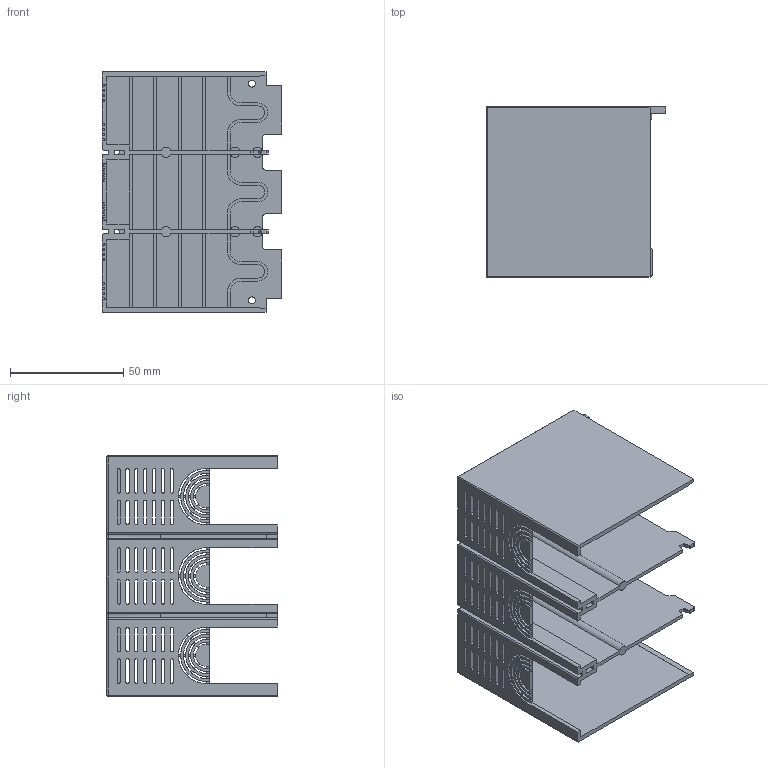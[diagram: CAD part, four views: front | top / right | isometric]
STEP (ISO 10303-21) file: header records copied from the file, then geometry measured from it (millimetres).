
FILE_DESCRIPTION (( 'STEP AP214' ), '1' );
FILE_NAME ('250 LPRC 3P.STEP', '2025-11-27T09:32:02', ( '' ), ( '' ), 'SwSTEP 2.0', 'SolidWorks 2024', '' );
FILE_SCHEMA (( 'AUTOMOTIVE_DESIGN' ));
Length unit declared in the file: millimetre
Products named in the file (1): 250 LPRC 3P
Bounding box: 79.25 x 75.05 x 106 mm (x, y, z)
Volume: 77232.2 mm3; surface area: 76464.6 mm2
Topology: 1 solids, 1 shells, 704 faces, 2176 edges, 1418 vertices
Faces by surface type: plane 428, cylinder 262, cone 6, sphere 6, torus 2
Entity records: 24791 total; most frequent: CARTESIAN_POINT 4505, ORIENTED_EDGE 4340, DIRECTION 4226, EDGE_CURVE 2170, LINE 1460, VECTOR 1460, VERTEX_POINT 1418, AXIS2_PLACEMENT_3D 1383
